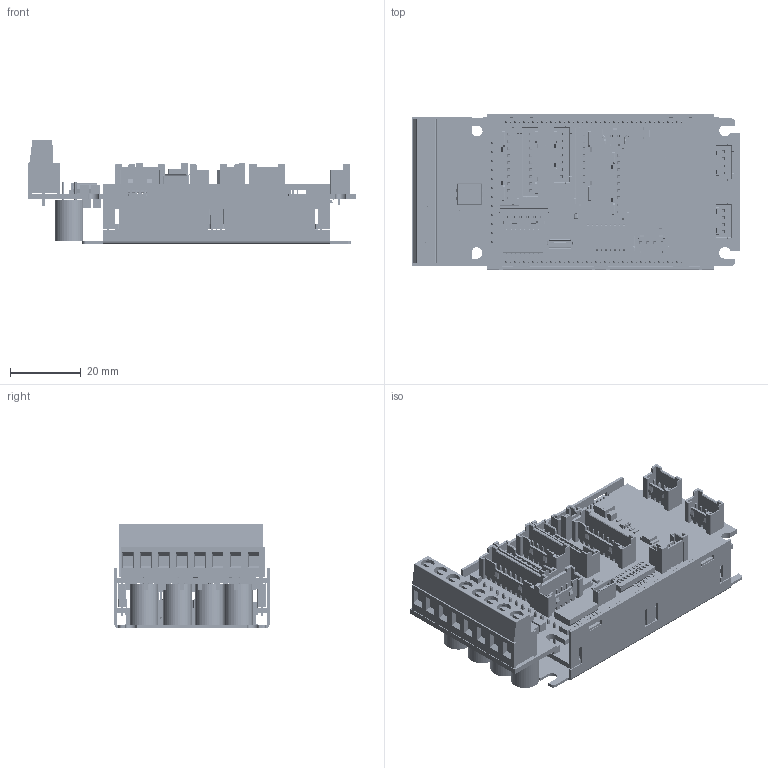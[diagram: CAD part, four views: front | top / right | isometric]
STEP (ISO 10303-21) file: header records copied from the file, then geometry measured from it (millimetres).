
FILE_DESCRIPTION (( 'STEP AP214' ), '1' );
FILE_NAME ('P022.710.0084.PCB.10E-XZ-CAN.STEP', '2025-01-15T15:37:56', ( '' ), ( '' ), 'SwSTEP 2.0', 'SolidWorks 2017', '' );
FILE_SCHEMA (( 'AUTOMOTIVE_DESIGN' ));
Length unit declared in the file: millimetre
Products named in the file (1): P022.710.0084.PCB.10E-XZ-CAN
Bounding box: 92.8 x 43.8 x 29.46 mm (x, y, z)
Volume: 23354.6 mm3; surface area: 51790 mm2
Topology: 715 solids, 718 shells, 18584 faces, 48026 edges, 31371 vertices
Faces by surface type: plane 14841, cylinder 2804, bspline 931, torus 8
Entity records: 814327 total; most frequent: CARTESIAN_POINT 148008, ORIENTED_EDGE 96404, DIRECTION 86424, EDGE_CURVE 48202, LINE 40398, VECTOR 40398, VERTEX_POINT 31499, AXIS2_PLACEMENT_3D 23013
